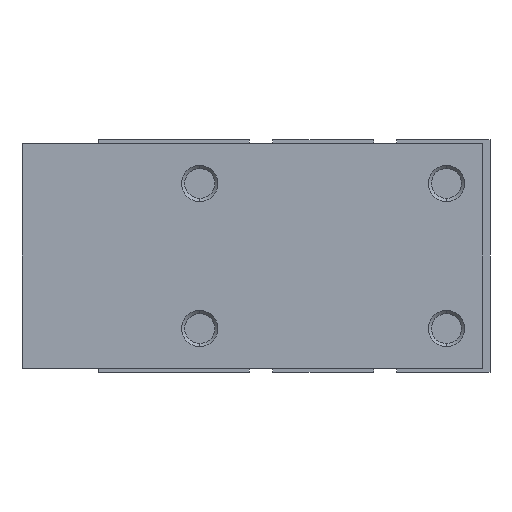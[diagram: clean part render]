
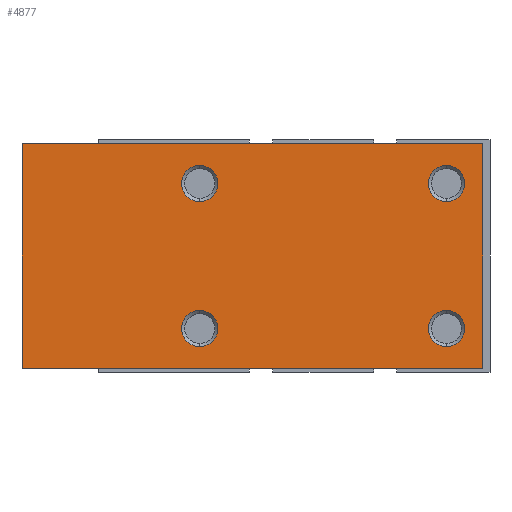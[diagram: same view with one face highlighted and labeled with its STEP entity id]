
A CAD part, left-side view. The second image highlights one B-rep face of the part: STEP entity #4877.
In plain terms, the highlighted planar face has unit normal (-1, 0, 0).
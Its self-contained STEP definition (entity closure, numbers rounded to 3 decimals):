
#13 = CARTESIAN_POINT ( 'NONE',  ( -15.5, 41.5, 15.5 ) ) ;
#43 = CARTESIAN_POINT ( 'NONE',  ( -15.5, 17., -12.5 ) ) ;
#45 = EDGE_CURVE ( 'NONE', #684, #2613, #3333, .T. ) ;
#127 = FACE_OUTER_BOUND ( 'NONE', #3894, .T. ) ;
#156 = FACE_BOUND ( 'NONE', #3391, .T. ) ;
#171 = ORIENTED_EDGE ( 'NONE', *, *, #2192, .F. ) ;
#182 = DIRECTION ( 'NONE',  ( 1., 0., 0. ) ) ;
#203 = CARTESIAN_POINT ( 'NONE',  ( -15.5, -17., -10. ) ) ;
#416 = CARTESIAN_POINT ( 'NONE',  ( -15.5, 41.5, -15.5 ) ) ;
#442 = CIRCLE ( 'NONE', #5608, 2.5 ) ;
#461 = CARTESIAN_POINT ( 'NONE',  ( -15.5, -22., 15.5 ) ) ;
#598 = CIRCLE ( 'NONE', #2751, 2.5 ) ;
#609 = VERTEX_POINT ( 'NONE', #3876 ) ;
#646 = VERTEX_POINT ( 'NONE', #1118 ) ;
#660 = VECTOR ( 'NONE', #3153, 1000. ) ;
#682 = CARTESIAN_POINT ( 'NONE',  ( -15.5, -22., 15.5 ) ) ;
#684 = VERTEX_POINT ( 'NONE', #2957 ) ;
#744 = AXIS2_PLACEMENT_3D ( 'NONE', #1856, #4107, #2783 ) ;
#756 = CARTESIAN_POINT ( 'NONE',  ( -15.5, 17., -10. ) ) ;
#830 = LINE ( 'NONE', #461, #660 ) ;
#916 = EDGE_CURVE ( 'NONE', #5497, #3335, #5979, .T. ) ;
#917 = CARTESIAN_POINT ( 'NONE',  ( -15.5, -17., 10. ) ) ;
#1045 = VECTOR ( 'NONE', #3600, 1000. ) ;
#1118 = CARTESIAN_POINT ( 'NONE',  ( -15.5, 41.5, -15.5 ) ) ;
#1151 = DIRECTION ( 'NONE',  ( 0., 0., 1. ) ) ;
#1203 = ORIENTED_EDGE ( 'NONE', *, *, #5465, .F. ) ;
#1311 = CARTESIAN_POINT ( 'NONE',  ( -15.5, -17., -7.5 ) ) ;
#1347 = EDGE_LOOP ( 'NONE', ( #2488, #2241 ) ) ;
#1406 = DIRECTION ( 'NONE',  ( -1., 0., 0. ) ) ;
#1412 = LINE ( 'NONE', #416, #2874 ) ;
#1460 = DIRECTION ( 'NONE',  ( 0., 0., 1. ) ) ;
#1496 = ORIENTED_EDGE ( 'NONE', *, *, #5759, .T. ) ;
#1590 = ORIENTED_EDGE ( 'NONE', *, *, #3011, .T. ) ;
#1620 = CIRCLE ( 'NONE', #744, 2.5 ) ;
#1642 = CARTESIAN_POINT ( 'NONE',  ( -15.5, 17., 10. ) ) ;
#1777 = ORIENTED_EDGE ( 'NONE', *, *, #5726, .F. ) ;
#1841 = DIRECTION ( 'NONE',  ( 0., -1., 0. ) ) ;
#1856 = CARTESIAN_POINT ( 'NONE',  ( -15.5, 17., 10. ) ) ;
#1869 = CARTESIAN_POINT ( 'NONE',  ( -15.5, 17., -7.5 ) ) ;
#2102 = CARTESIAN_POINT ( 'NONE',  ( -15.5, -17., 10. ) ) ;
#2155 = VERTEX_POINT ( 'NONE', #4600 ) ;
#2156 = LINE ( 'NONE', #5828, #1045 ) ;
#2167 = AXIS2_PLACEMENT_3D ( 'NONE', #13, #182, #4407 ) ;
#2192 = EDGE_CURVE ( 'NONE', #5073, #5090, #3640, .T. ) ;
#2241 = ORIENTED_EDGE ( 'NONE', *, *, #4176, .F. ) ;
#2269 = CARTESIAN_POINT ( 'NONE',  ( -15.5, 41.5, 15.5 ) ) ;
#2415 = CIRCLE ( 'NONE', #3995, 2.5 ) ;
#2468 = AXIS2_PLACEMENT_3D ( 'NONE', #2872, #1406, #1460 ) ;
#2488 = ORIENTED_EDGE ( 'NONE', *, *, #5436, .F. ) ;
#2535 = FACE_BOUND ( 'NONE', #4028, .T. ) ;
#2565 = DIRECTION ( 'NONE',  ( 0., 0., 1. ) ) ;
#2613 = VERTEX_POINT ( 'NONE', #1311 ) ;
#2623 = DIRECTION ( 'NONE',  ( -1., 0., 0. ) ) ;
#2721 = CARTESIAN_POINT ( 'NONE',  ( -15.5, 17., 7.5 ) ) ;
#2751 = AXIS2_PLACEMENT_3D ( 'NONE', #2102, #3025, #2565 ) ;
#2783 = DIRECTION ( 'NONE',  ( 0., 0., 1. ) ) ;
#2872 = CARTESIAN_POINT ( 'NONE',  ( -15.5, 17., -10. ) ) ;
#2874 = VECTOR ( 'NONE', #1841, 1000. ) ;
#2957 = CARTESIAN_POINT ( 'NONE',  ( -15.5, -17., -12.5 ) ) ;
#2980 = CIRCLE ( 'NONE', #4155, 2.5 ) ;
#3011 = EDGE_CURVE ( 'NONE', #646, #3316, #1412, .T. ) ;
#3025 = DIRECTION ( 'NONE',  ( -1., 0., 0. ) ) ;
#3101 = CIRCLE ( 'NONE', #5246, 2.5 ) ;
#3115 = EDGE_CURVE ( 'NONE', #5090, #5073, #442, .T. ) ;
#3153 = DIRECTION ( 'NONE',  ( 0., 0., -1. ) ) ;
#3186 = EDGE_CURVE ( 'NONE', #609, #4271, #2980, .T. ) ;
#3316 = VERTEX_POINT ( 'NONE', #3833 ) ;
#3333 = CIRCLE ( 'NONE', #3431, 2.5 ) ;
#3335 = VERTEX_POINT ( 'NONE', #682 ) ;
#3391 = EDGE_LOOP ( 'NONE', ( #171, #4889 ) ) ;
#3431 = AXIS2_PLACEMENT_3D ( 'NONE', #203, #2623, #4469 ) ;
#3510 = DIRECTION ( 'NONE',  ( -1., 0., 0. ) ) ;
#3600 = DIRECTION ( 'NONE',  ( 0., 0., -1. ) ) ;
#3629 = DIRECTION ( 'NONE',  ( 0., -1., 0. ) ) ;
#3640 = CIRCLE ( 'NONE', #2468, 2.5 ) ;
#3833 = CARTESIAN_POINT ( 'NONE',  ( -15.5, -22., -15.5 ) ) ;
#3876 = CARTESIAN_POINT ( 'NONE',  ( -15.5, 17., 12.5 ) ) ;
#3894 = EDGE_LOOP ( 'NONE', ( #1590, #1203, #5707, #1496 ) ) ;
#3909 = EDGE_CURVE ( 'NONE', #4271, #609, #1620, .T. ) ;
#3995 = AXIS2_PLACEMENT_3D ( 'NONE', #4914, #4007, #4558 ) ;
#4007 = DIRECTION ( 'NONE',  ( -1., 0., 0. ) ) ;
#4028 = EDGE_LOOP ( 'NONE', ( #5746, #4582 ) ) ;
#4107 = DIRECTION ( 'NONE',  ( -1., 0., 0. ) ) ;
#4155 = AXIS2_PLACEMENT_3D ( 'NONE', #1642, #3510, #1151 ) ;
#4176 = EDGE_CURVE ( 'NONE', #2155, #4333, #598, .T. ) ;
#4271 = VERTEX_POINT ( 'NONE', #2721 ) ;
#4333 = VERTEX_POINT ( 'NONE', #5098 ) ;
#4355 = EDGE_LOOP ( 'NONE', ( #1777, #5827 ) ) ;
#4407 = DIRECTION ( 'NONE',  ( 0., 1., 0. ) ) ;
#4469 = DIRECTION ( 'NONE',  ( 0., 0., 1. ) ) ;
#4529 = DIRECTION ( 'NONE',  ( 0., 0., 1. ) ) ;
#4558 = DIRECTION ( 'NONE',  ( 0., 0., 1. ) ) ;
#4582 = ORIENTED_EDGE ( 'NONE', *, *, #3909, .F. ) ;
#4600 = CARTESIAN_POINT ( 'NONE',  ( -15.5, -17., 7.5 ) ) ;
#4877 = ADVANCED_FACE ( 'NONE', ( #127, #156, #5723, #5292, #2535 ), #5778, .F. ) ;
#4884 = DIRECTION ( 'NONE',  ( -1., 0., 0. ) ) ;
#4889 = ORIENTED_EDGE ( 'NONE', *, *, #3115, .F. ) ;
#4914 = CARTESIAN_POINT ( 'NONE',  ( -15.5, -17., -10. ) ) ;
#5073 = VERTEX_POINT ( 'NONE', #1869 ) ;
#5090 = VERTEX_POINT ( 'NONE', #43 ) ;
#5098 = CARTESIAN_POINT ( 'NONE',  ( -15.5, -17., 12.5 ) ) ;
#5246 = AXIS2_PLACEMENT_3D ( 'NONE', #917, #6020, #5991 ) ;
#5292 = FACE_BOUND ( 'NONE', #4355, .T. ) ;
#5436 = EDGE_CURVE ( 'NONE', #4333, #2155, #3101, .T. ) ;
#5465 = EDGE_CURVE ( 'NONE', #3335, #3316, #830, .T. ) ;
#5497 = VERTEX_POINT ( 'NONE', #2269 ) ;
#5526 = CARTESIAN_POINT ( 'NONE',  ( -15.5, 41.5, 15.5 ) ) ;
#5571 = VECTOR ( 'NONE', #3629, 1000. ) ;
#5608 = AXIS2_PLACEMENT_3D ( 'NONE', #756, #4884, #4529 ) ;
#5707 = ORIENTED_EDGE ( 'NONE', *, *, #916, .F. ) ;
#5723 = FACE_BOUND ( 'NONE', #1347, .T. ) ;
#5726 = EDGE_CURVE ( 'NONE', #2613, #684, #2415, .T. ) ;
#5746 = ORIENTED_EDGE ( 'NONE', *, *, #3186, .F. ) ;
#5759 = EDGE_CURVE ( 'NONE', #5497, #646, #2156, .T. ) ;
#5778 = PLANE ( 'NONE',  #2167 ) ;
#5827 = ORIENTED_EDGE ( 'NONE', *, *, #45, .F. ) ;
#5828 = CARTESIAN_POINT ( 'NONE',  ( -15.5, 41.5, 15.5 ) ) ;
#5979 = LINE ( 'NONE', #5526, #5571 ) ;
#5991 = DIRECTION ( 'NONE',  ( 0., 0., 1. ) ) ;
#6020 = DIRECTION ( 'NONE',  ( -1., 0., 0. ) ) ;
